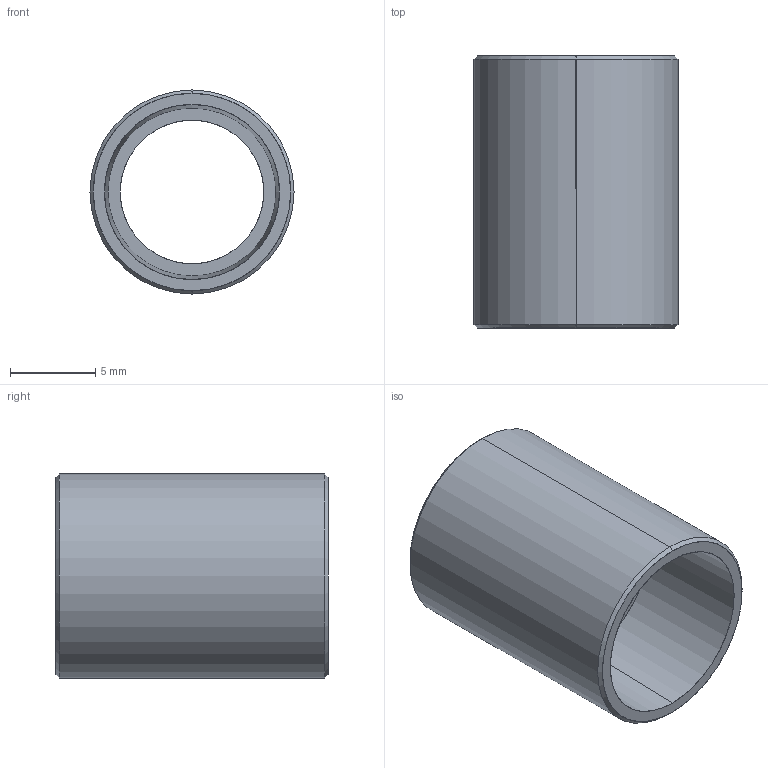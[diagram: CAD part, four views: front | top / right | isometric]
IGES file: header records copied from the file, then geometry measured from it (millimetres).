
Start section: SolidWorks IGES file using analytic representation for surfaces
Global section: file name: C:\Documents and Settings\CAD53\デスクトップ\IGES\N01868-411-0.IGS; native system: SolidWorks 2005 by SolidWorks Corporation; preprocessor: SolidWorks 2005 by SolidWorks Corporation; author: CAD53; date: 070530.115822; units: millimetre
Bounding box: 12 x 16 x 12 mm (x, y, z)
Surface area: 1191.3 mm2 (no closed solid volume)
Topology: 0 solids, 0 shells, 16 faces, 304 edges, 304 vertices
Faces by surface type: revolution 12, bspline 4
